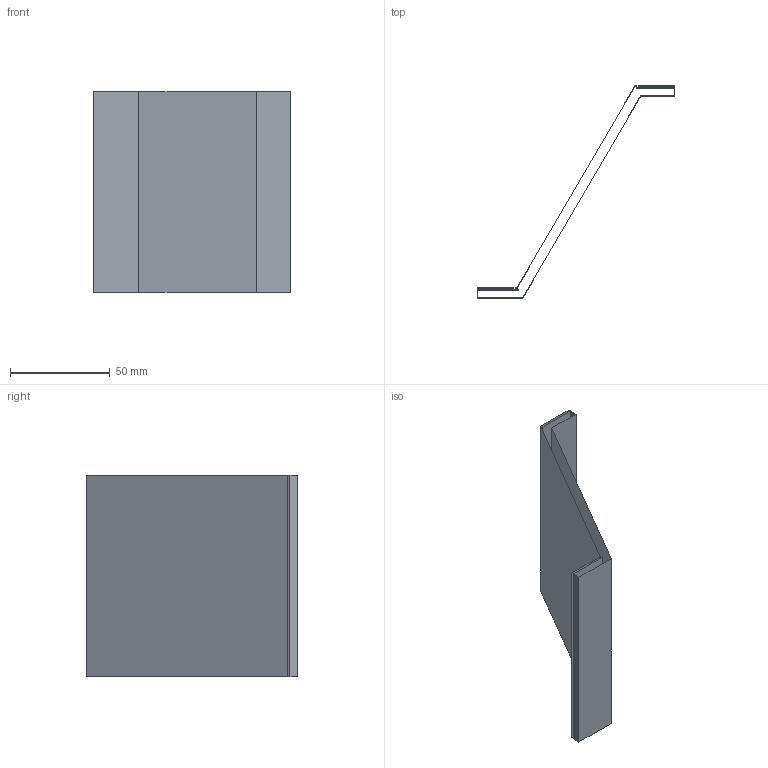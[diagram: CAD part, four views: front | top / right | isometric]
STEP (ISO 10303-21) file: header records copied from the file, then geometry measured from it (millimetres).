
FILE_DESCRIPTION(('CATIA V5 STEP Exchange'),'2;1');
FILE_NAME('C:\_Andres\UNIVERSIDAD\IQS\ASIGNATURAS\DAO\EXF\EXF-16172c\2inicio\Altirriba_Cusco_Ej06_v1.stp','2017-03-05T21:01:21+00:00',('none'),('none'),'CATIA Version 5-6 Release 2014 SP1 HF18','CATIA V5 STEP AP203','none');
FILE_SCHEMA(('CONFIG_CONTROL_DESIGN'));
Length unit declared in the file: millimetre
Products named in the file (1): Altirriba_Cusco_Ej06_v1
Bounding box: 99 x 106 x 101 mm (x, y, z)
Surface area: 36556 mm2 (no closed solid volume)
Topology: 0 solids, 2 shells, 10 faces, 42 edges, 36 vertices
Faces by surface type: plane 10
Entity records: 461 total; most frequent: CARTESIAN_POINT 100, DIRECTION 59, ORIENTED_EDGE 40, VECTOR 39, LINE 39, EDGE_CURVE 32, VERTEX_POINT 24, AXIS2_PLACEMENT_3D 11
